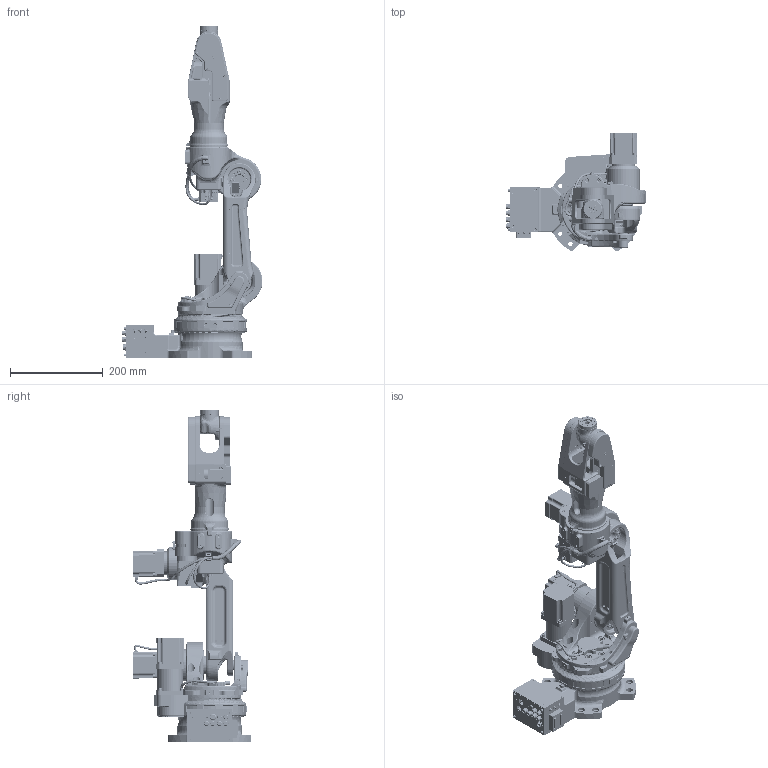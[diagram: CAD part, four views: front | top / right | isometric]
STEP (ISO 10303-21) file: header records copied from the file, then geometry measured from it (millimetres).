
FILE_DESCRIPTION (( 'STEP AP214' ), '1' );
FILE_NAME ('astorino-uproszczony.STEP', '2022-05-13T13:24:22', ( '' ), ( '' ), 'SwSTEP 2.0', 'SolidWorks 2021', '' );
FILE_SCHEMA (( 'AUTOMOTIVE_DESIGN' ));
Length unit declared in the file: millimetre
Products named in the file (26): JT6_gold; JT4_black; JT3_harness; JT6_black; BASE_gray; JT4_gray; BASE_red; JT3_gold; JT1_black; JT2_gold; BASE_gold; BASE_black; BASE_green; JT5_gray; JT1_grey; JT6_gray; JT1_gold; JT2_black; JT5_black; JT3_red; JT1_red; JT3_gray; JT3_black; astorino-uproszczony; JT2_gray; JT1_harness
Assembly tree (25 placements, depth 2):
  astorino-uproszczony
    BASE_black
    BASE_gray
    BASE_green
    BASE_red
    BASE_gold
    JT1_black
    JT1_grey
    JT1_harness
    JT1_gold
    JT1_red
    JT2_black
    JT2_gray
    JT2_gold
    JT3_black
    JT3_gray
    JT3_red
    JT3_harness
    JT3_gold
    JT4_black
    JT4_gray
    JT5_black
    JT5_gray
    JT6_black
    JT6_gray
    JT6_gold
Bounding box: 304.41 x 254.81 x 717.14 mm (x, y, z)
Volume: 5074994.9 mm3; surface area: 1073982 mm2
Topology: 188 solids, 360 shells, 9836 faces, 23429 edges, 14224 vertices
Faces by surface type: plane 4170, cylinder 3208, cone 888, torus 879, bspline 654, sphere 37
Entity records: 434918 total; most frequent: CARTESIAN_POINT 104968, DIRECTION 48227, ORIENTED_EDGE 45812, EDGE_CURVE 22907, AXIS2_PLACEMENT_3D 18523, VERTEX_POINT 14221, VECTOR 11181, LINE 11181
